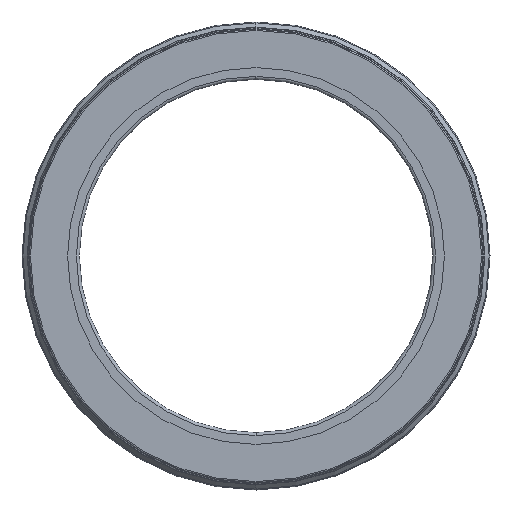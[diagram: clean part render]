
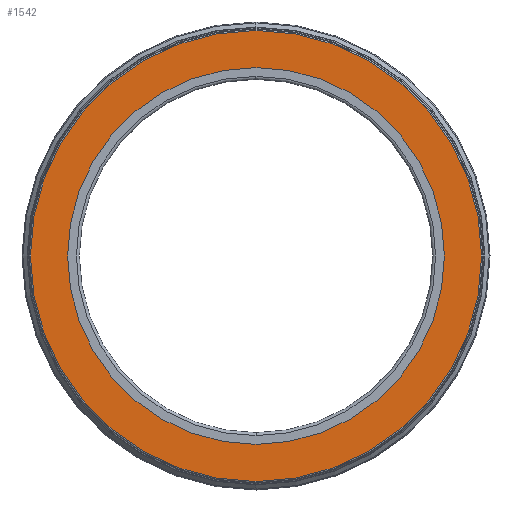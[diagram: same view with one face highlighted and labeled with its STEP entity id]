
A CAD part, front view. The second image highlights one B-rep face of the part: STEP entity #1542.
In plain terms, the highlighted planar face has unit normal (0, -1, 0).
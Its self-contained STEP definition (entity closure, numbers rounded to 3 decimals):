
#160=CARTESIAN_POINT('Vertex',(0.,-140.,77.105)) ;
#163=CARTESIAN_POINT('Axis2P3D Location',(0.,-140.,0.)) ;
#167=CARTESIAN_POINT('Vertex',(0.,-140.,-77.105)) ;
#182=CARTESIAN_POINT('Axis2P3D Location',(0.,-140.,0.)) ;
#199=CARTESIAN_POINT('Axis2P3D Location',(0.,-140.,0.)) ;
#203=CARTESIAN_POINT('Vertex',(0.,-140.,64.4)) ;
#205=CARTESIAN_POINT('Vertex',(0.,-140.,-64.4)) ;
#234=CARTESIAN_POINT('Axis2P3D Location',(0.,-140.,0.)) ;
#1529=CARTESIAN_POINT('Axis2P3D Location',(0.,-140.,64.4)) ;
#164=DIRECTION('Axis2P3D Direction',(0.,1.,0.)) ;
#183=DIRECTION('Axis2P3D Direction',(0.,1.,0.)) ;
#200=DIRECTION('Axis2P3D Direction',(0.,1.,0.)) ;
#235=DIRECTION('Axis2P3D Direction',(0.,1.,0.)) ;
#1530=DIRECTION('Axis2P3D Direction',(-0.,1.,0.)) ;
#1531=DIRECTION('Axis2P3D XDirection',(1.,0.,0.)) ;
#165=AXIS2_PLACEMENT_3D('Circle Axis2P3D',#163,#164,$) ;
#184=AXIS2_PLACEMENT_3D('Circle Axis2P3D',#182,#183,$) ;
#201=AXIS2_PLACEMENT_3D('Circle Axis2P3D',#199,#200,$) ;
#236=AXIS2_PLACEMENT_3D('Circle Axis2P3D',#234,#235,$) ;
#1532=AXIS2_PLACEMENT_3D('Plane Axis2P3D',#1529,#1530,#1531) ;
#1535=ORIENTED_EDGE('',*,*,#169,.F.) ;
#1536=ORIENTED_EDGE('',*,*,#186,.F.) ;
#1539=ORIENTED_EDGE('',*,*,#238,.T.) ;
#1540=ORIENTED_EDGE('',*,*,#207,.T.) ;
#1541=FACE_BOUND('',#1538,.T.) ;
#1542=ADVANCED_FACE('Corps principal',(#1537,#1541),#1533,.F.) ;
#166=CIRCLE('generated circle',#165,77.105) ;
#185=CIRCLE('generated circle',#184,77.105) ;
#202=CIRCLE('generated circle',#201,64.4) ;
#237=CIRCLE('generated circle',#236,64.4) ;
#169=EDGE_CURVE('',#161,#168,#166,.T.) ;
#186=EDGE_CURVE('',#168,#161,#185,.T.) ;
#207=EDGE_CURVE('',#204,#206,#202,.T.) ;
#238=EDGE_CURVE('',#206,#204,#237,.T.) ;
#1534=EDGE_LOOP('',(#1535,#1536)) ;
#1538=EDGE_LOOP('',(#1539,#1540)) ;
#1537=FACE_OUTER_BOUND('',#1534,.T.) ;
#1533=PLANE('',#1532) ;
#161=VERTEX_POINT('',#160) ;
#168=VERTEX_POINT('',#167) ;
#204=VERTEX_POINT('',#203) ;
#206=VERTEX_POINT('',#205) ;
